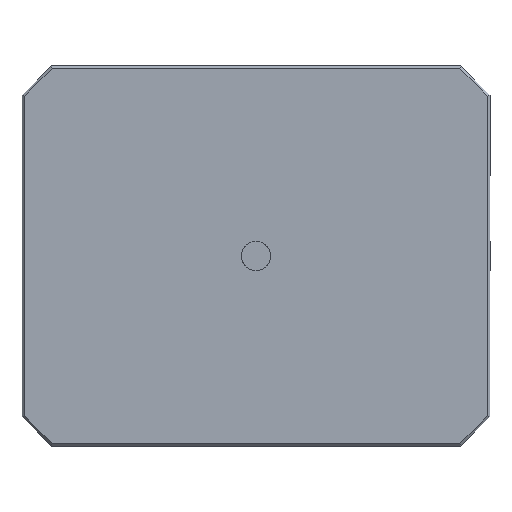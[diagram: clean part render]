
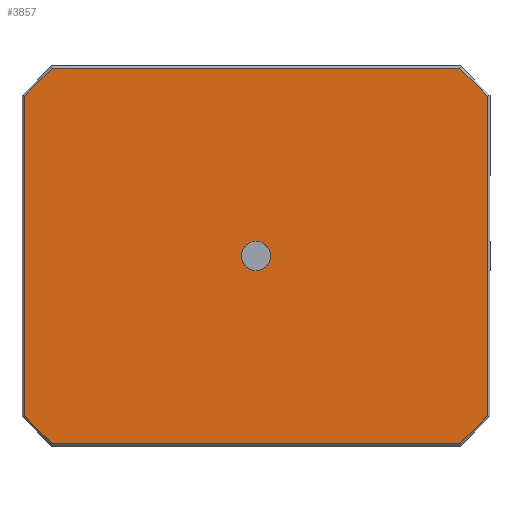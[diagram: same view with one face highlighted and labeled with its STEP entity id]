
A CAD part, front view. The second image highlights one B-rep face of the part: STEP entity #3857.
In plain terms, the highlighted planar face has unit normal (0, -1, 0).
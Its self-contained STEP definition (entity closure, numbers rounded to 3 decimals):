
#55 = CARTESIAN_POINT ( 'NONE',  ( 96., 0., 78. ) ) ;
#71 = CARTESIAN_POINT ( 'NONE',  ( 83.586, 0., -77. ) ) ;
#83 = LINE ( 'NONE', #4703, #4517 ) ;
#153 = CARTESIAN_POINT ( 'NONE',  ( -95.293, 0., 65.293 ) ) ;
#176 = EDGE_CURVE ( 'NONE', #375, #5798, #4667, .T. ) ;
#232 = VERTEX_POINT ( 'NONE', #935 ) ;
#375 = VERTEX_POINT ( 'NONE', #564 ) ;
#390 = CARTESIAN_POINT ( 'NONE',  ( 83.586, 0., 77. ) ) ;
#526 = LINE ( 'NONE', #2477, #906 ) ;
#533 = DIRECTION ( 'NONE',  ( 0., 0., 1. ) ) ;
#564 = CARTESIAN_POINT ( 'NONE',  ( 0., 0., 6. ) ) ;
#578 = DIRECTION ( 'NONE',  ( -0.707, 0., -0.707 ) ) ;
#617 = CARTESIAN_POINT ( 'NONE',  ( -95., 0., 78. ) ) ;
#740 = ORIENTED_EDGE ( 'NONE', *, *, #837, .T. ) ;
#790 = VERTEX_POINT ( 'NONE', #5462 ) ;
#837 = EDGE_CURVE ( 'NONE', #2731, #4462, #3722, .T. ) ;
#906 = VECTOR ( 'NONE', #1489, 1000. ) ;
#919 = DIRECTION ( 'NONE',  ( 0., 0., -1. ) ) ;
#935 = CARTESIAN_POINT ( 'NONE',  ( 95., 0., 65.586 ) ) ;
#936 = EDGE_CURVE ( 'NONE', #4462, #790, #3228, .T. ) ;
#944 = ORIENTED_EDGE ( 'NONE', *, *, #2862, .T. ) ;
#1017 = DIRECTION ( 'NONE',  ( 0., 1., 0. ) ) ;
#1084 = ORIENTED_EDGE ( 'NONE', *, *, #4108, .T. ) ;
#1340 = LINE ( 'NONE', #1752, #3737 ) ;
#1356 = LINE ( 'NONE', #2933, #3836 ) ;
#1454 = CARTESIAN_POINT ( 'NONE',  ( 0., 0., 0. ) ) ;
#1489 = DIRECTION ( 'NONE',  ( -0.707, 0., 0.707 ) ) ;
#1542 = ORIENTED_EDGE ( 'NONE', *, *, #4189, .F. ) ;
#1622 = DIRECTION ( 'NONE',  ( 0., 0., -1. ) ) ;
#1680 = DIRECTION ( 'NONE',  ( 0.707, 0., 0.707 ) ) ;
#1752 = CARTESIAN_POINT ( 'NONE',  ( 96., 0., 77. ) ) ;
#1758 = EDGE_CURVE ( 'NONE', #790, #4487, #4780, .T. ) ;
#1943 = EDGE_LOOP ( 'NONE', ( #6110, #740, #5977, #4848, #944, #1084, #2462, #3308 ) ) ;
#1978 = CARTESIAN_POINT ( 'NONE',  ( -83.586, 0., -77. ) ) ;
#2019 = VERTEX_POINT ( 'NONE', #2606 ) ;
#2287 = DIRECTION ( 'NONE',  ( 0.707, 0., -0.707 ) ) ;
#2340 = FACE_OUTER_BOUND ( 'NONE', #1943, .T. ) ;
#2341 = VERTEX_POINT ( 'NONE', #390 ) ;
#2344 = DIRECTION ( 'NONE',  ( -1., 0., 0. ) ) ;
#2443 = PLANE ( 'NONE',  #2516 ) ;
#2461 = VECTOR ( 'NONE', #578, 1000. ) ;
#2462 = ORIENTED_EDGE ( 'NONE', *, *, #3868, .T. ) ;
#2477 = CARTESIAN_POINT ( 'NONE',  ( 83.293, 0., 77.293 ) ) ;
#2516 = AXIS2_PLACEMENT_3D ( 'NONE', #55, #1017, #2986 ) ;
#2606 = CARTESIAN_POINT ( 'NONE',  ( 95., 0., -65.586 ) ) ;
#2717 = FACE_BOUND ( 'NONE', #5559, .T. ) ;
#2731 = VERTEX_POINT ( 'NONE', #6329 ) ;
#2782 = CARTESIAN_POINT ( 'NONE',  ( -83.293, 0., -77.293 ) ) ;
#2785 = EDGE_CURVE ( 'NONE', #232, #2341, #526, .T. ) ;
#2822 = DIRECTION ( 'NONE',  ( 0., -1., 0. ) ) ;
#2844 = VERTEX_POINT ( 'NONE', #71 ) ;
#2862 = EDGE_CURVE ( 'NONE', #4487, #2844, #1356, .T. ) ;
#2933 = CARTESIAN_POINT ( 'NONE',  ( 96., 0., -77. ) ) ;
#2986 = DIRECTION ( 'NONE',  ( 0., 0., 1. ) ) ;
#3177 = VECTOR ( 'NONE', #533, 1000. ) ;
#3228 = LINE ( 'NONE', #617, #3317 ) ;
#3308 = ORIENTED_EDGE ( 'NONE', *, *, #2785, .T. ) ;
#3317 = VECTOR ( 'NONE', #1622, 1000. ) ;
#3399 = DIRECTION ( 'NONE',  ( 1., 0., 0. ) ) ;
#3722 = LINE ( 'NONE', #153, #2461 ) ;
#3737 = VECTOR ( 'NONE', #2344, 1000. ) ;
#3836 = VECTOR ( 'NONE', #3399, 1000. ) ;
#3857 = ADVANCED_FACE ( 'NONE', ( #2340, #2717 ), #2443, .F. ) ;
#3868 = EDGE_CURVE ( 'NONE', #2019, #232, #4523, .T. ) ;
#4008 = VECTOR ( 'NONE', #2287, 1000. ) ;
#4011 = ORIENTED_EDGE ( 'NONE', *, *, #176, .F. ) ;
#4013 = CARTESIAN_POINT ( 'NONE',  ( -95., 0., 65.586 ) ) ;
#4108 = EDGE_CURVE ( 'NONE', #2844, #2019, #83, .T. ) ;
#4189 = EDGE_CURVE ( 'NONE', #5798, #375, #5748, .T. ) ;
#4462 = VERTEX_POINT ( 'NONE', #4013 ) ;
#4487 = VERTEX_POINT ( 'NONE', #1978 ) ;
#4517 = VECTOR ( 'NONE', #1680, 1000. ) ;
#4523 = LINE ( 'NONE', #4954, #3177 ) ;
#4667 = CIRCLE ( 'NONE', #4841, 6. ) ;
#4682 = DIRECTION ( 'NONE',  ( 0., -1., 0. ) ) ;
#4703 = CARTESIAN_POINT ( 'NONE',  ( 95.293, 0., -65.293 ) ) ;
#4780 = LINE ( 'NONE', #2782, #4008 ) ;
#4794 = EDGE_CURVE ( 'NONE', #2341, #2731, #1340, .T. ) ;
#4824 = CARTESIAN_POINT ( 'NONE',  ( 0., 0., -6. ) ) ;
#4841 = AXIS2_PLACEMENT_3D ( 'NONE', #1454, #2822, #919 ) ;
#4848 = ORIENTED_EDGE ( 'NONE', *, *, #1758, .T. ) ;
#4954 = CARTESIAN_POINT ( 'NONE',  ( 95., 0., 78. ) ) ;
#5169 = DIRECTION ( 'NONE',  ( 0., 0., -1. ) ) ;
#5462 = CARTESIAN_POINT ( 'NONE',  ( -95., 0., -65.586 ) ) ;
#5484 = AXIS2_PLACEMENT_3D ( 'NONE', #6120, #4682, #5169 ) ;
#5559 = EDGE_LOOP ( 'NONE', ( #1542, #4011 ) ) ;
#5748 = CIRCLE ( 'NONE', #5484, 6. ) ;
#5798 = VERTEX_POINT ( 'NONE', #4824 ) ;
#5977 = ORIENTED_EDGE ( 'NONE', *, *, #936, .T. ) ;
#6110 = ORIENTED_EDGE ( 'NONE', *, *, #4794, .T. ) ;
#6120 = CARTESIAN_POINT ( 'NONE',  ( 0., 0., 0. ) ) ;
#6329 = CARTESIAN_POINT ( 'NONE',  ( -83.586, 0., 77. ) ) ;
